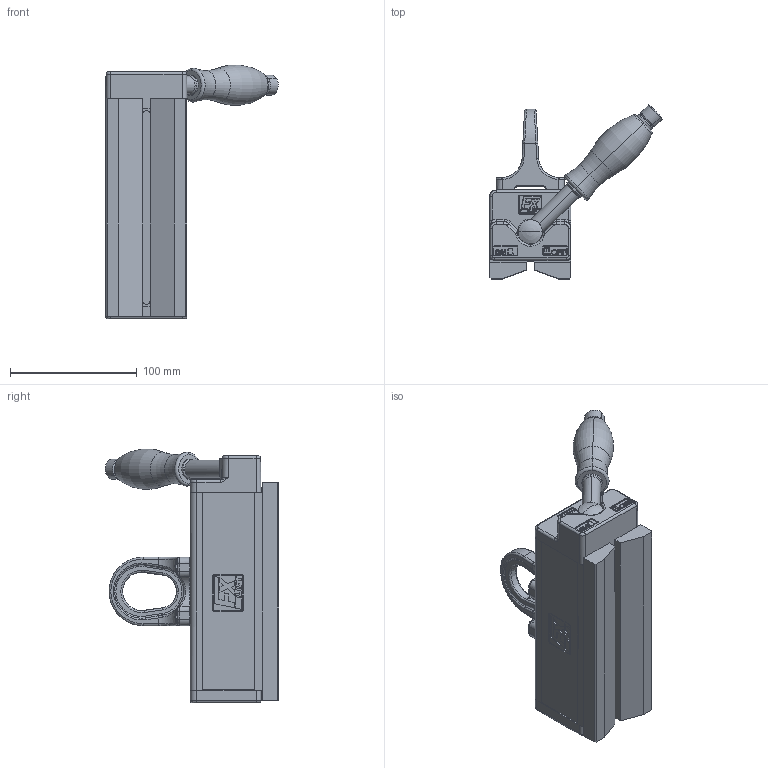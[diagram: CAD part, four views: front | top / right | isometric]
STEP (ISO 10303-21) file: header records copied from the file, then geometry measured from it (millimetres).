
FILE_DESCRIPTION (( 'STEP AP203' ), '1' );
FILE_NAME ('FX-P 170 Vertrieb.STEP', '2016-09-22T06:30:49', ( '' ), ( '' ), 'SwSTEP 2.0', 'SolidWorks 2013', '' );
FILE_SCHEMA (( 'CONFIG_CONTROL_DESIGN' ));
Length unit declared in the file: millimetre
Products named in the file (1): FX-P 170 Vertrieb
Bounding box: 136.1 x 137.05 x 200.35 mm (x, y, z)
Volume: 851410.1 mm3; surface area: 93577.9 mm2
Topology: 1 solids, 1 shells, 1192 faces, 2878 edges, 1725 vertices
Faces by surface type: plane 433, bspline 352, cylinder 347, cone 38, torus 20, sphere 2
Entity records: 47785 total; most frequent: CARTESIAN_POINT 22744, ORIENTED_EDGE 5716, DIRECTION 4404, EDGE_CURVE 2858, VERTEX_POINT 1725, VECTOR 1472, LINE 1472, AXIS2_PLACEMENT_3D 1466
